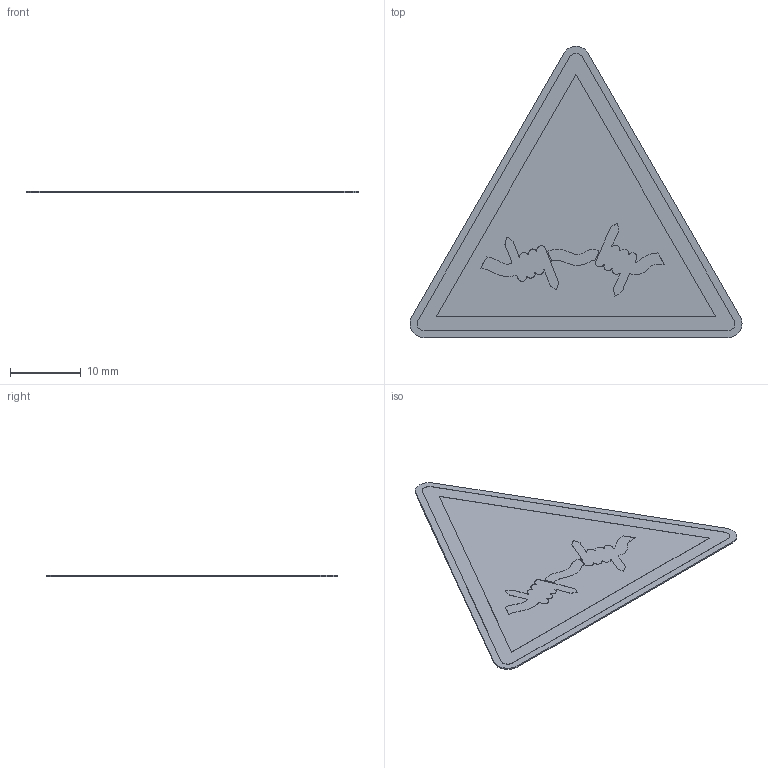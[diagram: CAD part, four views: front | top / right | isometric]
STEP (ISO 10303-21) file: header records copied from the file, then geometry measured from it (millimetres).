
FILE_DESCRIPTION (( 'STEP AP214' ), '1' );
FILE_NAME ('W033_Warnung vor Stacheldraht.STEP', '2022-03-03T14:09:30', ( '' ), ( '' ), 'SwSTEP 2.0', 'SolidWorks 2021', '' );
FILE_SCHEMA (( 'AUTOMOTIVE_DESIGN' ));
Length unit declared in the file: millimetre
Products named in the file (1): W033_Warnung vor Stacheldraht
Bounding box: 47.07 x 41.3 x 0.22 mm (x, y, z)
Volume: 220.7 mm3; surface area: 2183 mm2
Topology: 1 solids, 1 shells, 190 faces, 549 edges, 366 vertices
Faces by surface type: plane 127, cylinder 63
Entity records: 8264 total; most frequent: CARTESIAN_POINT 1106, ORIENTED_EDGE 1098, DIRECTION 1057, EDGE_CURVE 549, LINE 423, VECTOR 423, VERTEX_POINT 366, AXIS2_PLACEMENT_3D 317
